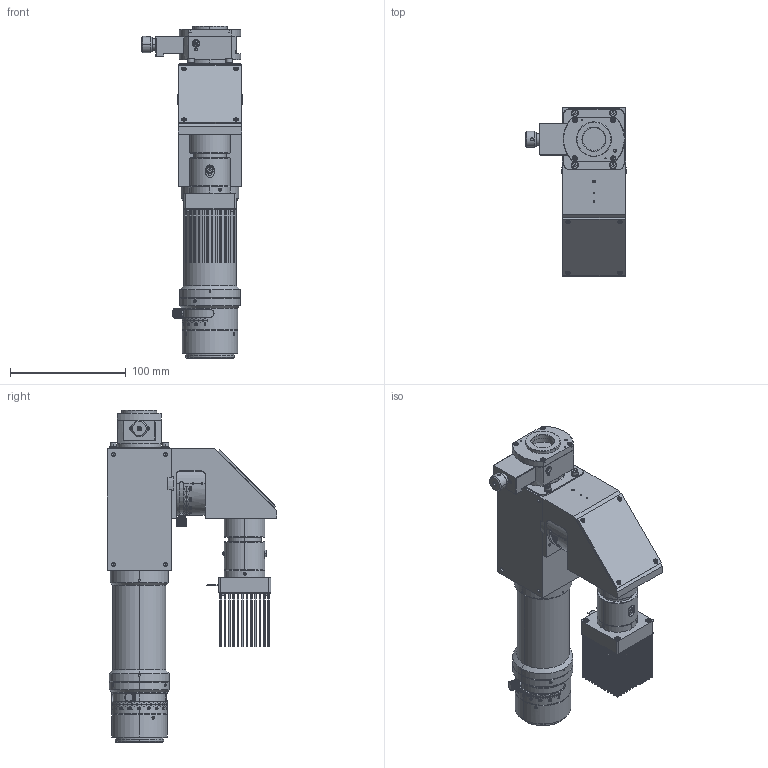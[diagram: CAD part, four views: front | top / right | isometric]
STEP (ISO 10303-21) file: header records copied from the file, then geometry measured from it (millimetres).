
FILE_DESCRIPTION (( 'STEP AP214' ), '1' );
FILE_NAME ('aSOD-180-27M42-DIC.STEP', '2026-02-19T05:50:51', ( '' ), ( '' ), 'SwSTEP 2.0', 'SolidWorks 2025', '' );
FILE_SCHEMA (( 'AUTOMOTIVE_DESIGN' ));
Products named in the file (1): aSOD-180-27M42-DIC
Bounding box: 86.99 x 146 x 286.78 mm (x, y, z)
Volume: 906152.6 mm3; surface area: 152158.3 mm2
Topology: 2 solids, 52 shells, 4612 faces, 11921 edges, 7695 vertices
Faces by surface type: plane 2405, cylinder 1403, cone 387, bspline 301, torus 103, sphere 13
Entity records: 192597 total; most frequent: CARTESIAN_POINT 81049, ORIENTED_EDGE 23598, DIRECTION 22738, EDGE_CURVE 11799, AXIS2_PLACEMENT_3D 8225, VERTEX_POINT 7690, VECTOR 6288, LINE 6288
